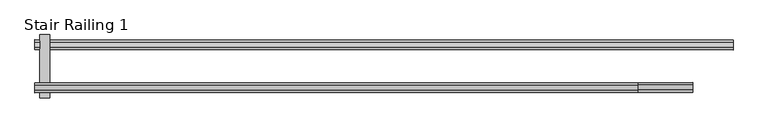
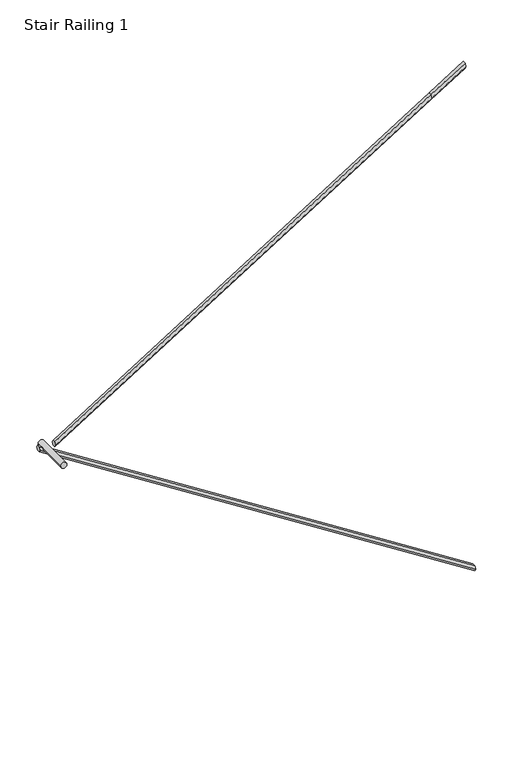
"""IFC4 building model written with IfcOpenShell, lengths in millimetres: railing geometry, Stair Railing 1."""

from ifc_helpers import new_model, si_unit, frame, origin, place, context, project, spatial, circle_curve, faceted_brep, source, transform, mapped, element, save
from ifc_brep_helpers import plane_surface, cylinder_surface, advanced_brep


def stair_railing_1_04a2c75b(model_context):
    return source(origin(), model_context, "Body", "SolidModel", [
        faceted_brep([(46975.6613811, 46191.4865351, 13752.6888889), (46975.6613811, 46204.1865351, 13774.6859341), (46975.6613811, 46229.5865351, 13774.6859341), (46975.6613811, 46242.2865351, 13752.6888889), (46975.6613811, 46229.5865351, 13730.6918436), (46975.6613811, 46204.1865351, 13730.6918436), (50534.1355635, 46191.4865351, 11477.9777778), (50534.1355635, 46204.1865351, 11455.9807325), (50534.1355635, 46229.5865351, 11455.9807325), (50534.1355635, 46242.2865351, 11477.9777778), (50534.1355635, 46229.5865351, 11499.974823), (50534.1355635, 46204.1865351, 11499.974823)], [[[0, 1, 2, 3, 4, 5]], [[6, 7, 8, 9, 10, 11]], [[1, 0, 6, 11]], [[2, 1, 11, 10]], [[3, 2, 10, 9]], [[4, 3, 9, 8]], [[5, 4, 8, 7]], [[0, 5, 7, 6]]]),
        advanced_brep(
        [(47051.8613811, 45946.4030566, 13752.6888889), (47001.0613811, 45946.4030566, 13752.6888889), (47051.8613811, 46267.6865351, 13752.6888889), (47001.0613811, 46267.6865351, 13752.6888889)],
        [
            (0, 1, circle_curve(frame((47026.4613811, 45946.4030566, 13752.6888889), z_axis=(0.0, -1.0, 0.0), x_axis=(1.0, 0.0, 0.0)), 25.4)),
            (1, 0, circle_curve(frame((47026.4613811, 45946.4030566, 13752.6888889), z_axis=(0.0, -1.0, 0.0), x_axis=(1.0, 0.0, 0.0)), 25.4)),
            (2, 3, circle_curve(frame((47026.4613811, 46267.6865351, 13752.6888889), z_axis=(0.0, 1.0, 0.0), x_axis=(1.0, 0.0, 0.0)), 25.4)),
            (3, 2, circle_curve(frame((47026.4613811, 46267.6865351, 13752.6888889), z_axis=(0.0, 1.0, 0.0), x_axis=(1.0, 0.0, 0.0)), 25.4)),
            (0, 2),
            (3, 1),
        ],
        [
            plane_surface(frame((47051.8613811, 45946.4030566, 13727.2888889), z_axis=(0.0, -1.0, 0.0), x_axis=(0.0, 0.0, -1.0))),
            plane_surface(frame((47051.8613811, 46267.6865351, 13727.2888889), z_axis=(0.0, 1.0, 0.0), x_axis=(0.0, 0.0, 1.0))),
            cylinder_surface(frame((47026.4613811, 46267.6865351, 13752.6888889), z_axis=(0.0, -1.0, 0.0), x_axis=(1.0, 0.0, 0.0)), 25.4),
        ],
        [
            (0, [[1, 2]]),
            (1, [[3, 4]]),
            (2, [[-1, 5, -4, 6]]),
            (2, [[-2, -6, -3, -5]]),
        ],
    ),
        faceted_brep([(50049.0613811, 46022.6030566, 15852.4222222), (50049.0613811, 46009.9030566, 15874.4192675), (50049.0613811, 45984.5030566, 15874.4192675), (50049.0613811, 45971.8030566, 15852.4222222), (50049.0613811, 45984.5030566, 15830.425177), (50049.0613811, 46009.9030566, 15830.425177), (46975.6613811, 46022.6030566, 13927.6666667), (46975.6613811, 46009.9030566, 13905.6696214), (46975.6613811, 45984.5030566, 13905.6696214), (46975.6613811, 45971.8030566, 13927.6666667), (46975.6613811, 45984.5030566, 13949.6637119), (46975.6613811, 46009.9030566, 13949.6637119)], [[[0, 1, 2, 3, 4, 5]], [[6, 7, 8, 9, 10, 11]], [[1, 0, 6, 11]], [[2, 1, 11, 10]], [[3, 2, 10, 9]], [[4, 3, 9, 8]], [[5, 4, 8, 7]], [[0, 5, 7, 6]]]),
        faceted_brep([(50328.4613811, 46022.6030566, 16027.4), (50328.4613811, 46009.9030566, 16049.3970453), (50328.4613811, 45984.5030566, 16049.3970453), (50328.4613811, 45971.8030566, 16027.4), (50328.4613811, 45984.5030566, 16005.4029547), (50328.4613811, 46009.9030566, 16005.4029547), (50049.0613811, 46022.6030566, 15852.4222222), (50049.0613811, 46009.9030566, 15830.425177), (50049.0613811, 45984.5030566, 15830.425177), (50049.0613811, 45971.8030566, 15852.4222222), (50049.0613811, 45984.5030566, 15874.4192675), (50049.0613811, 46009.9030566, 15874.4192675)], [[[0, 1, 2, 3, 4, 5]], [[6, 7, 8, 9, 10, 11]], [[1, 0, 6, 11]], [[2, 1, 11, 10]], [[3, 2, 10, 9]], [[4, 3, 9, 8]], [[5, 4, 8, 7]], [[0, 5, 7, 6]]]),
    ])


if __name__ == "__main__":
    model = new_model("IFC4")
    model_context = context("Model", 3, world=origin())
    ifc_project = project(units=[si_unit("LENGTHUNIT", "METRE", prefix="MILLI")], contexts=[model_context])
    site = spatial("IfcSite", under=ifc_project)
    building = spatial("IfcBuilding", under=site)
    placement = place(None, origin())
    stair_railing_1_shape = stair_railing_1_04a2c75b(model_context)
    element("IfcRailing", 1, ObjectType="Stair Railing 1", at=placement, inside=building, context=model_context, shape_type="MappedRepresentation", body=[
        mapped(stair_railing_1_shape, transform((0.0, 0.0, 0.0), x_axis=(1.0, 0.0, 0.0), y_axis=(0.0, 1.0, 0.0), z_axis=(0.0, 0.0, 1.0))),
    ])
    save(model, "model.ifc")
